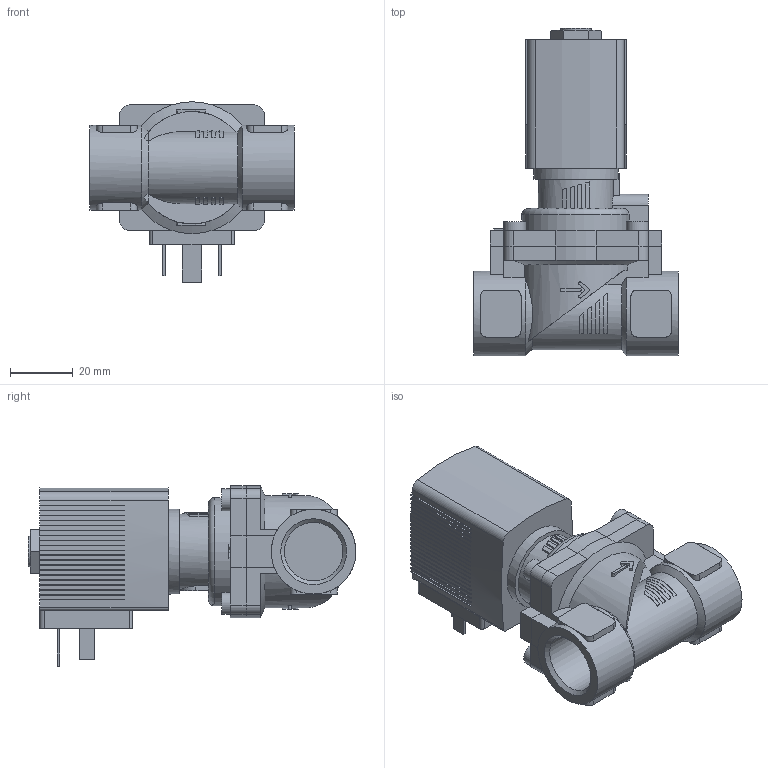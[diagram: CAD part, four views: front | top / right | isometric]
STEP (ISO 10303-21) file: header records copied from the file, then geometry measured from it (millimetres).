
FILE_DESCRIPTION(/* description */ ('STEP AP214'),/* implementation_level */ '2;1');
FILE_NAME(/* name */ '6281-286140-2_2-Way_Solenoid_Valve__Servo-assisted__General_Purpose',/* time_stamp */ '2024-05-10T13:03:28+02:00',/* author */ ('License CC BY-ND 4.0'),/* organization */ ('CADENAS'),/* preprocessor_version */ 'ST-DEVELOPER v19.3',/* originating_system */ 'PARTsolutions',/* authorisation */ ' ');
FILE_SCHEMA (('AUTOMOTIVE_DESIGN {1 0 10303 214 3 1 1}'));
Length unit declared in the file: millimetre
Products named in the file (4): 6281-286140-2/2-Way Solenoid Valve, Servo-assisted, General Purpose; 5281ev130MS2/2-Wege-Magnetventil mit Servomembran-Deckel 42 ; 6213-13G1/2MS-Gehaeuse-lang; AC10ex-5OO-Plan-Coil
Assembly tree (3 placements, depth 2):
  6281-286140-2/2-Way Solenoid Valve, Servo-assisted, General Purpose
    5281ev130MS2/2-Wege-Magnetventil mit Servomembran-Deckel 42 
    6213-13G1/2MS-Gehaeuse-lang
    AC10ex-5OO-Plan-Coil
Bounding box: 65 x 104.5 x 57.5 mm (x, y, z)
Volume: 119612.5 mm3; surface area: 30115.8 mm2
Topology: 3 solids, 3 shells, 539 faces, 1489 edges, 982 vertices
Faces by surface type: plane 435, cylinder 90, cone 13, torus 1
Full cylindrical faces by diameter (mm): 2.013 x1, 7 x4, 9.74 x1, 18.631 x2, 27 x3
Entity records: 19782 total; most frequent: CARTESIAN_POINT 3236, ORIENTED_EDGE 2936, DIRECTION 2812, EDGE_CURVE 1468, LINE 1080, VECTOR 1080, VERTEX_POINT 976, AXIS2_PLACEMENT_3D 866
